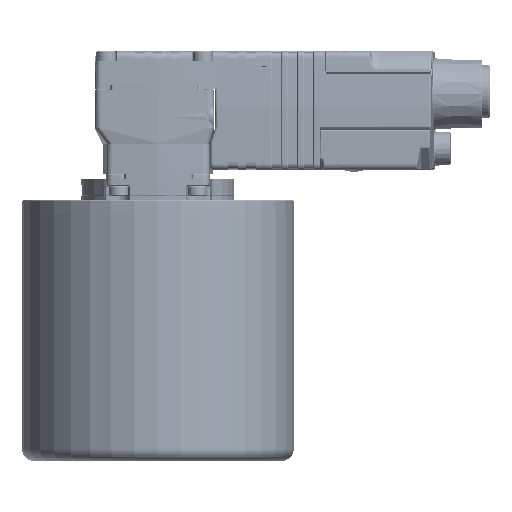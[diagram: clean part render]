
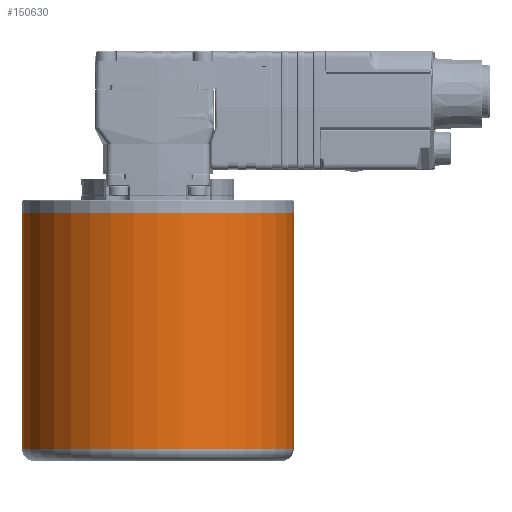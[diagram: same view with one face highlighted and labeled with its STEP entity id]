
A CAD part, left-side view. The second image highlights one B-rep face of the part: STEP entity #150630.
In plain terms, the highlighted cylindrical face has radius 27 mm (diameter 54 mm), a partial arc.
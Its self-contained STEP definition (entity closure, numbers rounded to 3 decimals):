
#49 = CARTESIAN_POINT ( 'NONE',  ( 0., -27., -54.75 ) ) ;
#9181 = CYLINDRICAL_SURFACE ( 'NONE', #107451, 27. ) ;
#19530 = VERTEX_POINT ( 'NONE', #49 ) ;
#22477 = CARTESIAN_POINT ( 'NONE',  ( 0., 27., -7.75 ) ) ;
#22903 = FACE_OUTER_BOUND ( 'NONE', #98604, .T. ) ;
#26405 = DIRECTION ( 'NONE',  ( 0., 0., 1. ) ) ;
#26857 = VERTEX_POINT ( 'NONE', #22477 ) ;
#27640 = VECTOR ( 'NONE', #26405, 1000. ) ;
#37704 = CIRCLE ( 'NONE', #141439, 27. ) ;
#44230 = EDGE_CURVE ( 'NONE', #26857, #114402, #147477, .T. ) ;
#50525 = ORIENTED_EDGE ( 'NONE', *, *, #105597, .T. ) ;
#55011 = VERTEX_POINT ( 'NONE', #133496 ) ;
#63113 = DIRECTION ( 'NONE',  ( 0., -1., 0. ) ) ;
#63519 = DIRECTION ( 'NONE',  ( 0., 0., 1. ) ) ;
#67634 = DIRECTION ( 'NONE',  ( 0., -1., 0. ) ) ;
#71731 = CARTESIAN_POINT ( 'NONE',  ( 0., -27., -7.75 ) ) ;
#73051 = EDGE_CURVE ( 'NONE', #55011, #26857, #87499, .T. ) ;
#75945 = CARTESIAN_POINT ( 'NONE',  ( 0., 0., -42.948 ) ) ;
#78604 = LINE ( 'NONE', #128194, #27640 ) ;
#81170 = DIRECTION ( 'NONE',  ( 0., -1., 0. ) ) ;
#86658 = CARTESIAN_POINT ( 'NONE',  ( 0., 27., -42.948 ) ) ;
#87499 = LINE ( 'NONE', #86658, #116029 ) ;
#89947 = CARTESIAN_POINT ( 'NONE',  ( 0., 0., -54.75 ) ) ;
#98604 = EDGE_LOOP ( 'NONE', ( #102698, #50525, #131342, #122184 ) ) ;
#102698 = ORIENTED_EDGE ( 'NONE', *, *, #73051, .F. ) ;
#105597 = EDGE_CURVE ( 'NONE', #55011, #19530, #37704, .T. ) ;
#107451 = AXIS2_PLACEMENT_3D ( 'NONE', #75945, #139199, #63113 ) ;
#113477 = EDGE_CURVE ( 'NONE', #19530, #114402, #78604, .T. ) ;
#114402 = VERTEX_POINT ( 'NONE', #71731 ) ;
#114652 = AXIS2_PLACEMENT_3D ( 'NONE', #135808, #159771, #81170 ) ;
#116029 = VECTOR ( 'NONE', #63519, 1000. ) ;
#122184 = ORIENTED_EDGE ( 'NONE', *, *, #44230, .F. ) ;
#128194 = CARTESIAN_POINT ( 'NONE',  ( 0., -27., -42.948 ) ) ;
#131342 = ORIENTED_EDGE ( 'NONE', *, *, #113477, .T. ) ;
#133496 = CARTESIAN_POINT ( 'NONE',  ( 0., 27., -54.75 ) ) ;
#135808 = CARTESIAN_POINT ( 'NONE',  ( 0., 0., -7.75 ) ) ;
#139199 = DIRECTION ( 'NONE',  ( 0., 0., 1. ) ) ;
#141439 = AXIS2_PLACEMENT_3D ( 'NONE', #89947, #142040, #67634 ) ;
#142040 = DIRECTION ( 'NONE',  ( 0., 0., 1. ) ) ;
#147477 = CIRCLE ( 'NONE', #114652, 27. ) ;
#150630 = ADVANCED_FACE ( 'NONE', ( #22903 ), #9181, .T. ) ;
#159771 = DIRECTION ( 'NONE',  ( 0., 0., 1. ) ) ;
